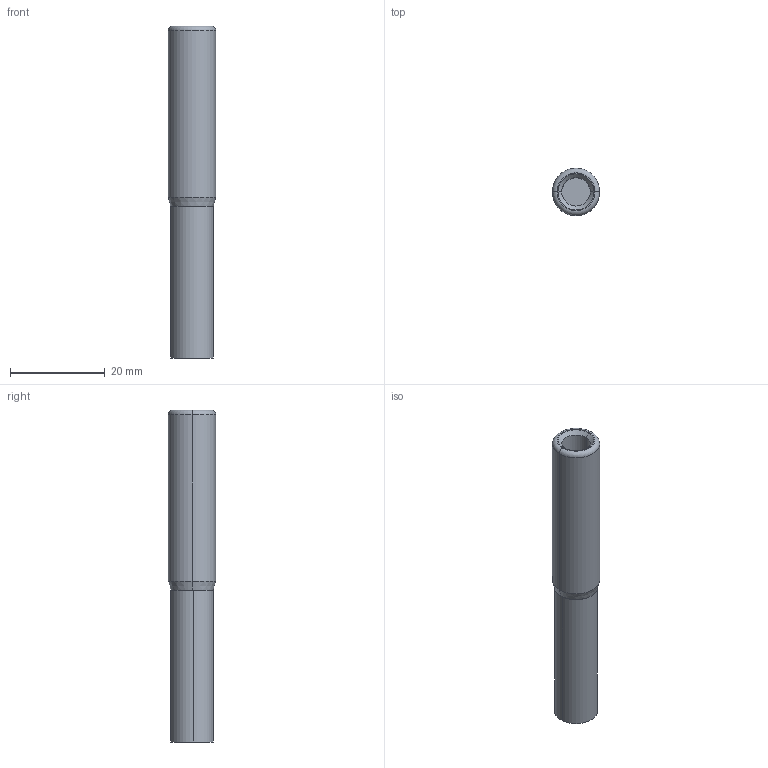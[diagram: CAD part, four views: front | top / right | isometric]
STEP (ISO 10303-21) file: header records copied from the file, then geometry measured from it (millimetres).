
FILE_DESCRIPTION (( 'STEP AP214' ), '1' );
FILE_NAME ('OptiKit C-GTL-1625.STEP', '2020-05-19T08:25:35', ( '' ), ( '' ), 'SwSTEP 2.0', 'SolidWorks 2018', '' );
FILE_SCHEMA (( 'AUTOMOTIVE_DESIGN' ));
Length unit declared in the file: millimetre
Products named in the file (3): 极噉 1625; 离桧栝 1625; OptiKit C-GTL-1625
Assembly tree (2 placements, depth 2):
  OptiKit C-GTL-1625
    离桧栝 1625
    极噉 1625
Bounding box: 10 x 10 x 70 mm (x, y, z)
Volume: 3416.6 mm3; surface area: 3420.9 mm2
Topology: 2 solids, 2 shells, 23 faces, 44 edges, 25 vertices
Faces by surface type: cone 8, cylinder 8, plane 5, torus 2
Entity records: 680 total; most frequent: DIRECTION 124, CARTESIAN_POINT 95, ORIENTED_EDGE 84, AXIS2_PLACEMENT_3D 54, EDGE_CURVE 42, CIRCLE 26, VERTEX_POINT 25, EDGE_LOOP 25
